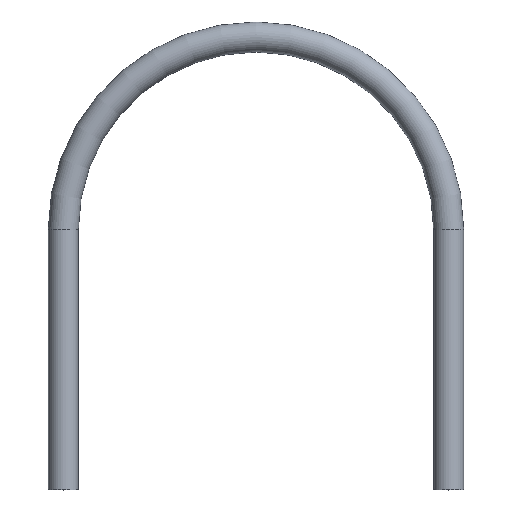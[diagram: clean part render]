
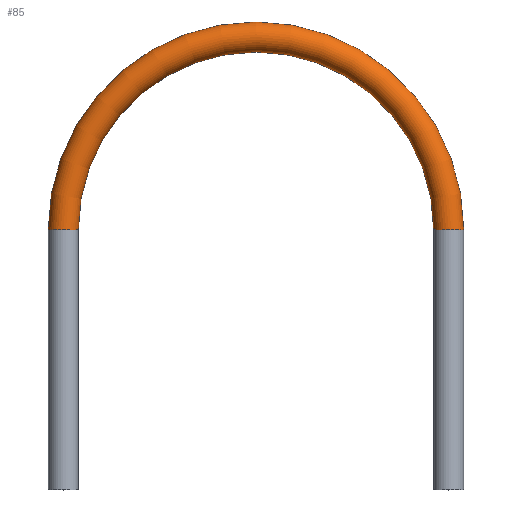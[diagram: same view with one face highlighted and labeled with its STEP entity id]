
A CAD part, top view. The second image highlights one B-rep face of the part: STEP entity #85.
In plain terms, the highlighted toroidal (fillet/blend) face has major radius 77 mm and minor radius 6 mm.
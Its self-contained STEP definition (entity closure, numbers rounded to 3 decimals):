
#17=TOROIDAL_SURFACE('',#114,77.,6.);
#19=FACE_OUTER_BOUND('',#24,.T.);
#24=EDGE_LOOP('',(#66,#67,#68,#69,#70,#71));
#34=CIRCLE('',#112,6.);
#35=CIRCLE('',#113,6.);
#36=CIRCLE('',#115,71.);
#37=CIRCLE('',#116,6.);
#38=CIRCLE('',#117,6.);
#43=VERTEX_POINT('',#161);
#44=VERTEX_POINT('',#163);
#45=VERTEX_POINT('',#167);
#46=VERTEX_POINT('',#169);
#52=EDGE_CURVE('',#43,#44,#34,.T.);
#53=EDGE_CURVE('',#44,#43,#35,.T.);
#54=EDGE_CURVE('',#43,#45,#36,.T.);
#55=EDGE_CURVE('',#45,#46,#37,.T.);
#56=EDGE_CURVE('',#46,#45,#38,.T.);
#66=ORIENTED_EDGE('',*,*,#53,.F.);
#67=ORIENTED_EDGE('',*,*,#52,.F.);
#68=ORIENTED_EDGE('',*,*,#54,.T.);
#69=ORIENTED_EDGE('',*,*,#55,.T.);
#70=ORIENTED_EDGE('',*,*,#56,.T.);
#71=ORIENTED_EDGE('',*,*,#54,.F.);
#85=ADVANCED_FACE('',(#19),#17,.T.);
#112=AXIS2_PLACEMENT_3D('',#164,#132,#133);
#113=AXIS2_PLACEMENT_3D('',#165,#134,#135);
#114=AXIS2_PLACEMENT_3D('',#166,#136,#137);
#115=AXIS2_PLACEMENT_3D('',#168,#138,#139);
#116=AXIS2_PLACEMENT_3D('',#170,#140,#141);
#117=AXIS2_PLACEMENT_3D('',#171,#142,#143);
#132=DIRECTION('center_axis',(0.,-1.,0.));
#133=DIRECTION('ref_axis',(-1.,0.,0.));
#134=DIRECTION('center_axis',(0.,-1.,0.));
#135=DIRECTION('ref_axis',(-1.,0.,0.));
#136=DIRECTION('center_axis',(0.,0.,1.));
#137=DIRECTION('ref_axis',(1.,0.,0.));
#138=DIRECTION('center_axis',(0.,0.,-1.));
#139=DIRECTION('ref_axis',(1.,0.,0.));
#140=DIRECTION('center_axis',(0.,1.,0.));
#141=DIRECTION('ref_axis',(1.,0.,0.));
#142=DIRECTION('center_axis',(0.,1.,0.));
#143=DIRECTION('ref_axis',(1.,0.,0.));
#161=CARTESIAN_POINT('',(-71.,0.,0.));
#163=CARTESIAN_POINT('',(-83.,0.,0.));
#164=CARTESIAN_POINT('Origin',(-77.,0.,0.));
#165=CARTESIAN_POINT('Origin',(-77.,0.,0.));
#166=CARTESIAN_POINT('Origin',(0.,0.,0.));
#167=CARTESIAN_POINT('',(71.,0.,0.));
#168=CARTESIAN_POINT('Origin',(0.,0.,0.));
#169=CARTESIAN_POINT('',(83.,0.,0.));
#170=CARTESIAN_POINT('Origin',(77.,0.,0.));
#171=CARTESIAN_POINT('Origin',(77.,0.,0.));
